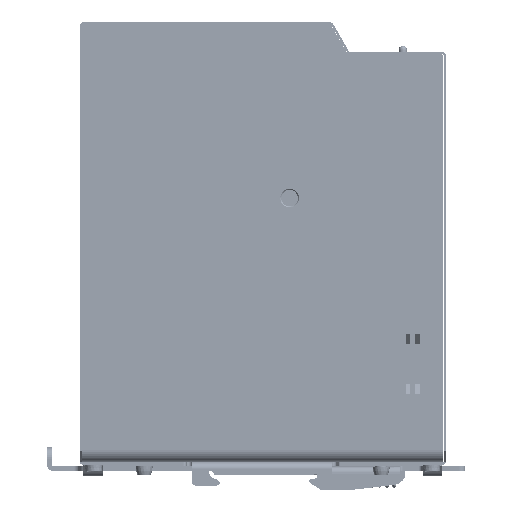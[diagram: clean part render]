
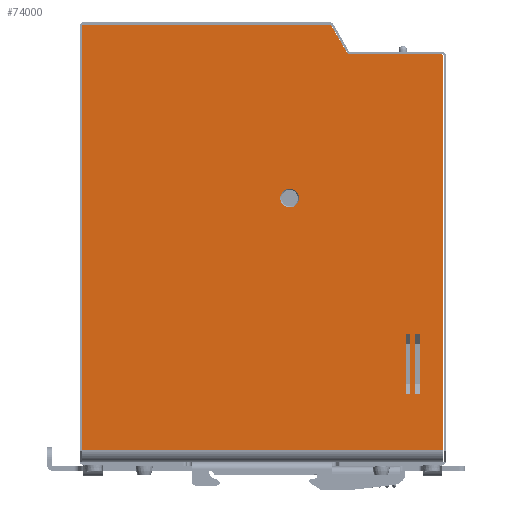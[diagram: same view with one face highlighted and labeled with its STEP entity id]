
A CAD part, front view. The second image highlights one B-rep face of the part: STEP entity #74000.
In plain terms, the highlighted planar face has unit normal (0, -1, 0).
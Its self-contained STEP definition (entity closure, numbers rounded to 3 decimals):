
#3951=FACE_BOUND('',#12251,.T.);
#3952=FACE_BOUND('',#12252,.T.);
#3953=FACE_BOUND('',#12253,.T.);
#5354=CIRCLE('',#79661,1.);
#5364=CIRCLE('',#79678,0.5);
#5366=CIRCLE('',#79682,0.5);
#5367=CIRCLE('',#79683,0.5);
#5368=CIRCLE('',#79684,3.15);
#5369=CIRCLE('',#79685,3.15);
#7929=FACE_OUTER_BOUND('',#12250,.T.);
#12250=EDGE_LOOP('',(#56261,#56262,#56263,#56264,#56265,#56266,#56267,#56268,
#56269,#56270));
#12251=EDGE_LOOP('',(#56271,#56272,#56273,#56274));
#12252=EDGE_LOOP('',(#56275,#56276,#56277,#56278));
#12253=EDGE_LOOP('',(#56279,#56280));
#18518=LINE('',#111558,#26112);
#18545=LINE('',#111634,#26139);
#18548=LINE('',#111640,#26142);
#18549=LINE('',#111642,#26143);
#18550=LINE('',#111644,#26144);
#18551=LINE('',#111647,#26145);
#18552=LINE('',#111651,#26146);
#18553=LINE('',#111653,#26147);
#18554=LINE('',#111655,#26148);
#18555=LINE('',#111656,#26149);
#18556=LINE('',#111659,#26150);
#18557=LINE('',#111661,#26151);
#18558=LINE('',#111663,#26152);
#18559=LINE('',#111664,#26153);
#26112=VECTOR('',#90501,10.);
#26139=VECTOR('',#90562,10.);
#26142=VECTOR('',#90567,10.);
#26143=VECTOR('',#90568,10.);
#26144=VECTOR('',#90569,2.88);
#26145=VECTOR('',#90572,10.);
#26146=VECTOR('',#90575,10.);
#26147=VECTOR('',#90576,10.);
#26148=VECTOR('',#90577,10.);
#26149=VECTOR('',#90578,10.);
#26150=VECTOR('',#90579,10.);
#26151=VECTOR('',#90580,10.);
#26152=VECTOR('',#90581,10.);
#26153=VECTOR('',#90582,10.);
#33234=VERTEX_POINT('',#111548);
#33235=VERTEX_POINT('',#111549);
#33238=VERTEX_POINT('',#111557);
#33266=VERTEX_POINT('',#111624);
#33267=VERTEX_POINT('',#111625);
#33270=VERTEX_POINT('',#111633);
#33272=VERTEX_POINT('',#111639);
#33273=VERTEX_POINT('',#111641);
#33274=VERTEX_POINT('',#111643);
#33275=VERTEX_POINT('',#111646);
#33276=VERTEX_POINT('',#111649);
#33277=VERTEX_POINT('',#111650);
#33278=VERTEX_POINT('',#111652);
#33279=VERTEX_POINT('',#111654);
#33280=VERTEX_POINT('',#111657);
#33281=VERTEX_POINT('',#111658);
#33282=VERTEX_POINT('',#111660);
#33283=VERTEX_POINT('',#111662);
#33284=VERTEX_POINT('',#111665);
#33285=VERTEX_POINT('',#111666);
#41603=EDGE_CURVE('',#33234,#33235,#5354,.T.);
#41607=EDGE_CURVE('',#33238,#33235,#18518,.T.);
#41640=EDGE_CURVE('',#33266,#33267,#5364,.T.);
#41644=EDGE_CURVE('',#33267,#33270,#18545,.T.);
#41647=EDGE_CURVE('',#33272,#33266,#18548,.T.);
#41648=EDGE_CURVE('',#33272,#33273,#18549,.T.);
#41649=EDGE_CURVE('',#33274,#33273,#18550,.T.);
#41650=EDGE_CURVE('',#33238,#33274,#5366,.T.);
#41651=EDGE_CURVE('',#33234,#33275,#18551,.T.);
#41652=EDGE_CURVE('',#33270,#33275,#5367,.T.);
#41653=EDGE_CURVE('',#33276,#33277,#18552,.T.);
#41654=EDGE_CURVE('',#33277,#33278,#18553,.T.);
#41655=EDGE_CURVE('',#33278,#33279,#18554,.T.);
#41656=EDGE_CURVE('',#33279,#33276,#18555,.T.);
#41657=EDGE_CURVE('',#33280,#33281,#18556,.T.);
#41658=EDGE_CURVE('',#33281,#33282,#18557,.T.);
#41659=EDGE_CURVE('',#33282,#33283,#18558,.T.);
#41660=EDGE_CURVE('',#33283,#33280,#18559,.T.);
#41661=EDGE_CURVE('',#33284,#33285,#5368,.T.);
#41662=EDGE_CURVE('',#33285,#33284,#5369,.T.);
#56261=ORIENTED_EDGE('',*,*,#41640,.F.);
#56262=ORIENTED_EDGE('',*,*,#41647,.F.);
#56263=ORIENTED_EDGE('',*,*,#41648,.T.);
#56264=ORIENTED_EDGE('',*,*,#41649,.F.);
#56265=ORIENTED_EDGE('',*,*,#41650,.F.);
#56266=ORIENTED_EDGE('',*,*,#41607,.T.);
#56267=ORIENTED_EDGE('',*,*,#41603,.F.);
#56268=ORIENTED_EDGE('',*,*,#41651,.T.);
#56269=ORIENTED_EDGE('',*,*,#41652,.F.);
#56270=ORIENTED_EDGE('',*,*,#41644,.F.);
#56271=ORIENTED_EDGE('',*,*,#41653,.T.);
#56272=ORIENTED_EDGE('',*,*,#41654,.T.);
#56273=ORIENTED_EDGE('',*,*,#41655,.T.);
#56274=ORIENTED_EDGE('',*,*,#41656,.T.);
#56275=ORIENTED_EDGE('',*,*,#41657,.T.);
#56276=ORIENTED_EDGE('',*,*,#41658,.T.);
#56277=ORIENTED_EDGE('',*,*,#41659,.T.);
#56278=ORIENTED_EDGE('',*,*,#41660,.T.);
#56279=ORIENTED_EDGE('',*,*,#41661,.T.);
#56280=ORIENTED_EDGE('',*,*,#41662,.T.);
#70981=PLANE('',#79681);
#74000=ADVANCED_FACE('',(#7929,#3951,#3952,#3953),#70981,.F.);
#79661=AXIS2_PLACEMENT_3D('',#111550,#90493,#90494);
#79678=AXIS2_PLACEMENT_3D('',#111626,#90554,#90555);
#79681=AXIS2_PLACEMENT_3D('',#111638,#90565,#90566);
#79682=AXIS2_PLACEMENT_3D('',#111645,#90570,#90571);
#79683=AXIS2_PLACEMENT_3D('',#111648,#90573,#90574);
#79684=AXIS2_PLACEMENT_3D('',#111667,#90583,#90584);
#79685=AXIS2_PLACEMENT_3D('',#111668,#90585,#90586);
#90493=DIRECTION('center_axis',(0.,-1.,0.));
#90494=DIRECTION('ref_axis',(-0.5,0.,-0.866));
#90501=DIRECTION('',(-1.,0.,0.));
#90554=DIRECTION('center_axis',(0.,1.,0.));
#90555=DIRECTION('ref_axis',(-0.707,0.,0.707));
#90562=DIRECTION('',(1.,0.,0.));
#90565=DIRECTION('center_axis',(0.,1.,0.));
#90566=DIRECTION('ref_axis',(1.,0.,0.));
#90567=DIRECTION('',(0.,0.,1.));
#90568=DIRECTION('',(1.,0.,0.));
#90569=DIRECTION('',(0.,0.,-1.));
#90570=DIRECTION('center_axis',(0.,1.,0.));
#90571=DIRECTION('ref_axis',(0.707,0.,0.707));
#90572=DIRECTION('',(-0.5,0.,0.866));
#90573=DIRECTION('center_axis',(0.,1.,0.));
#90574=DIRECTION('ref_axis',(0.5,0.,0.866));
#90575=DIRECTION('',(0.,0.,1.));
#90576=DIRECTION('',(1.,0.,0.));
#90577=DIRECTION('',(0.,0.,-1.));
#90578=DIRECTION('',(-1.,0.,0.));
#90579=DIRECTION('',(0.,0.,-1.));
#90580=DIRECTION('',(-1.,0.,0.));
#90581=DIRECTION('',(0.,0.,1.));
#90582=DIRECTION('',(1.,0.,0.));
#90583=DIRECTION('center_axis',(0.,1.,0.));
#90584=DIRECTION('ref_axis',(1.,0.,0.));
#90585=DIRECTION('center_axis',(0.,1.,0.));
#90586=DIRECTION('ref_axis',(1.,0.,0.));
#111548=CARTESIAN_POINT('',(28.511,-82.5,138.));
#111549=CARTESIAN_POINT('',(29.377,-82.5,137.5));
#111550=CARTESIAN_POINT('Origin',(29.377,-82.5,138.5));
#111557=CARTESIAN_POINT('',(60.5,-82.5,137.5));
#111558=CARTESIAN_POINT('',(30.5,-82.5,137.5));
#111624=CARTESIAN_POINT('',(-61.,-82.5,147.));
#111625=CARTESIAN_POINT('',(-60.5,-82.5,147.5));
#111626=CARTESIAN_POINT('Origin',(-60.5,-82.5,147.));
#111633=CARTESIAN_POINT('',(22.738,-82.5,147.5));
#111634=CARTESIAN_POINT('',(-61.,-82.5,147.5));
#111638=CARTESIAN_POINT('Origin',(0.,-82.5,
73.488));
#111639=CARTESIAN_POINT('',(-61.,-82.5,4.));
#111640=CARTESIAN_POINT('',(-61.,-82.5,4.));
#111641=CARTESIAN_POINT('',(61.,-82.5,4.));
#111642=CARTESIAN_POINT('',(0.,-82.5,4.));
#111643=CARTESIAN_POINT('',(61.,-82.5,137.));
#111644=CARTESIAN_POINT('',(61.,-82.5,-5.048));
#111645=CARTESIAN_POINT('Origin',(60.5,-82.5,137.));
#111646=CARTESIAN_POINT('',(23.171,-82.5,147.25));
#111647=CARTESIAN_POINT('',(39.059,-82.5,119.731));
#111648=CARTESIAN_POINT('Origin',(22.738,-82.5,147.));
#111649=CARTESIAN_POINT('',(51.5,-82.5,23.));
#111650=CARTESIAN_POINT('',(51.5,-82.5,43.));
#111651=CARTESIAN_POINT('',(51.5,-82.5,58.244));
#111652=CARTESIAN_POINT('',(53.,-82.5,43.));
#111653=CARTESIAN_POINT('',(26.5,-82.5,43.));
#111654=CARTESIAN_POINT('',(53.,-82.5,23.));
#111655=CARTESIAN_POINT('',(53.,-82.5,48.244));
#111656=CARTESIAN_POINT('',(25.75,-82.5,23.));
#111657=CARTESIAN_POINT('',(49.8,-82.5,43.));
#111658=CARTESIAN_POINT('',(49.8,-82.5,23.));
#111659=CARTESIAN_POINT('',(49.8,-82.5,48.244));
#111660=CARTESIAN_POINT('',(48.3,-82.5,23.));
#111661=CARTESIAN_POINT('',(24.15,-82.5,23.));
#111662=CARTESIAN_POINT('',(48.3,-82.5,43.));
#111663=CARTESIAN_POINT('',(48.3,-82.5,58.244));
#111664=CARTESIAN_POINT('',(24.9,-82.5,43.));
#111665=CARTESIAN_POINT('',(12.25,-82.5,89.));
#111666=CARTESIAN_POINT('',(5.95,-82.5,89.));
#111667=CARTESIAN_POINT('Origin',(9.1,-82.5,89.));
#111668=CARTESIAN_POINT('Origin',(9.1,-82.5,89.));
